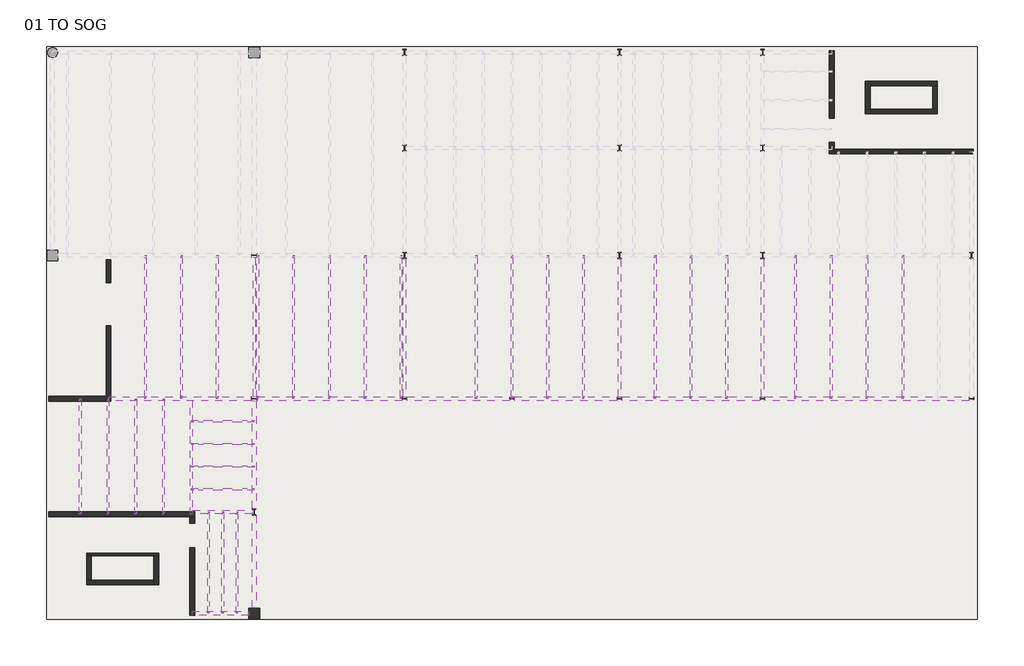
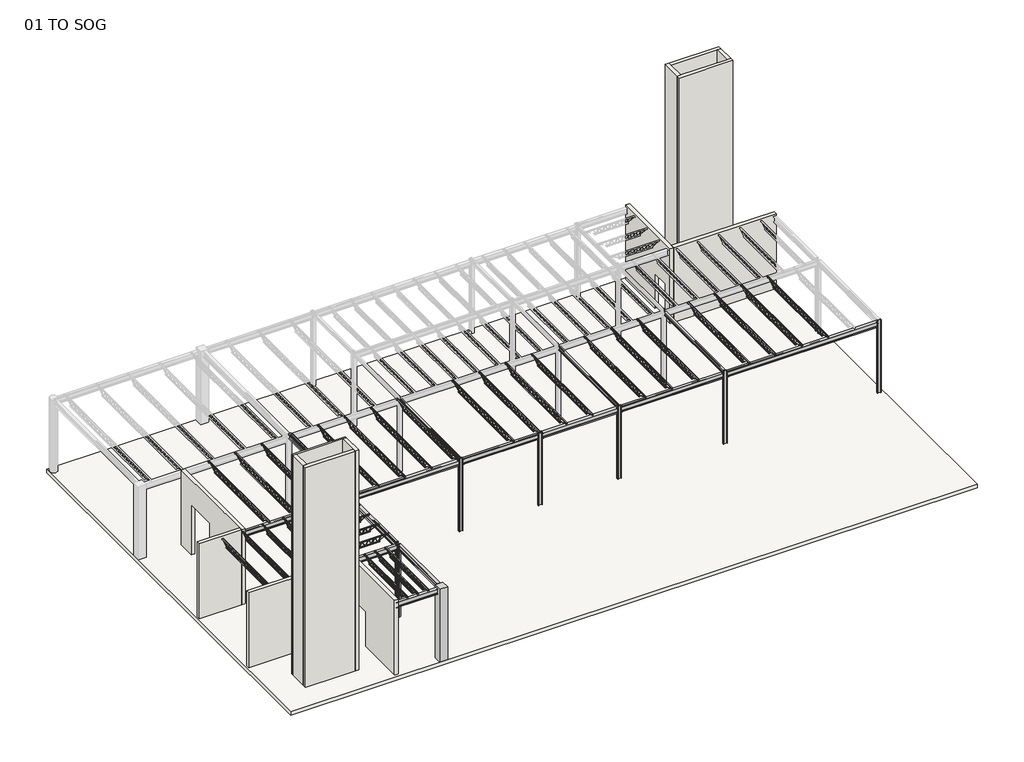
# One storey, part 1 of 2: 45 beams, 14 walls, 8 columns, 1 slab.
"""IFC4 building model written with IfcOpenShell, lengths in millimetres."""

from ifc_helpers import new_model, si_unit, frame, origin, origin_with_axes, place, context, project, spatial, polyline, outline, extrude, faceted_brep, transform, mapped, element, save
from components import k_series_bar_joist_angle_web_12k3_cd6388da, k_series_bar_joist_angle_web_12k3_99e26d15, k_series_bar_joist_angle_web_12k3_59fd12ad, k_series_bar_joist_angle_web_14k6_8be7365d, w_wide_flange_w12x26_d3b26f5c, w_wide_flange_w12x26_05a32f20, w_wide_flange_w12x26_42f441ab, w_wide_flange_w12x26_3f7f05cf, w_wide_flange_w12x26_e485c43d, w_wide_flange_w12x26_dab5e391, w_wide_flange_w12x26_4f900ce5, w_wide_flange_w12x26_99869b80, w_wide_flange_w12x26_59dcab40, w_wide_flange_w8x10_49406460, w_wide_flange_w8x10_a9415ded, w_wide_flange_w8x10_4e543893, w_wide_flange_w8x10_f474adca, w_wide_flange_column_w10x30_8af20c5e, w_wide_flange_column_w8x10_a9b31349

model = new_model("IFC4")

# Units and contexts
model_context = context("Model", 3, world=origin())
ifc_project = project(units=[si_unit("LENGTHUNIT", "METRE", prefix="MILLI")], contexts=[model_context])

# Site, building, storey
site = spatial("IfcSite", under=ifc_project)
building = spatial("IfcBuilding", under=site)
storey = spatial("IfcBuildingStorey", under=building, Name="01 TO SOG", Elevation=0.0)

# Beams
placement = place(None, origin())
k_series_bar_joist_angle_web_12k3_shape = k_series_bar_joist_angle_web_12k3_cd6388da(model_context)
element("IfcBeam", 1, ObjectType="K-Series Bar Joist-Angle Web : 12K3", at=placement, inside=storey, context=model_context, shape_type="MappedRepresentation", body=[
    mapped(k_series_bar_joist_angle_web_12k3_shape, transform((-12634.1838699, -12720.8253362, 4292.6), x_axis=(0.0, 1.0, 0.0), y_axis=(-1.0, 0.0, 0.0), z_axis=(0.0, 0.0, 1.0))),
])
element("IfcBeam", 2, ObjectType="K-Series Bar Joist-Angle Web : 12K3", at=placement, inside=storey, context=model_context, shape_type="MappedRepresentation", body=[
    mapped(k_series_bar_joist_angle_web_12k3_shape, transform((-12024.5838699, -12720.8253362, 4292.6), x_axis=(0.0, 1.0, 0.0), y_axis=(-1.0, 0.0, 0.0), z_axis=(0.0, 0.0, 1.0))),
])
element("IfcBeam", 3, ObjectType="K-Series Bar Joist-Angle Web : 12K3", at=placement, inside=storey, context=model_context, shape_type="MappedRepresentation", body=[
    mapped(k_series_bar_joist_angle_web_12k3_shape, transform((-11414.9838699, -12720.8253362, 4292.6), x_axis=(0.0, 1.0, 0.0), y_axis=(-1.0, 0.0, 0.0), z_axis=(0.0, 0.0, 1.0))),
])
k_series_bar_joist_angle_web_12k3_2_shape = k_series_bar_joist_angle_web_12k3_99e26d15(model_context)
element("IfcBeam", 4, ObjectType="K-Series Bar Joist-Angle Web : 12K3", at=placement, inside=storey, context=model_context, shape_type="MappedRepresentation", body=[
    mapped(k_series_bar_joist_angle_web_12k3_2_shape, transform((-12024.5838699, -6701.0253362, 4292.6), x_axis=(1.0, 0.0, 0.0), y_axis=(0.0, 1.0, 0.0), z_axis=(0.0, 0.0, 1.0))),
])
element("IfcBeam", 5, ObjectType="K-Series Bar Joist-Angle Web : 12K3", at=placement, inside=storey, context=model_context, shape_type="MappedRepresentation", body=[
    mapped(k_series_bar_joist_angle_web_12k3_2_shape, transform((-12024.5838699, -7666.2253362, 4292.6), x_axis=(1.0, 0.0, 0.0), y_axis=(0.0, 1.0, 0.0), z_axis=(0.0, 0.0, 1.0))),
])
element("IfcBeam", 6, ObjectType="K-Series Bar Joist-Angle Web : 12K3", at=placement, inside=storey, context=model_context, shape_type="MappedRepresentation", body=[
    mapped(k_series_bar_joist_angle_web_12k3_2_shape, transform((-12024.5838699, -8631.4253362, 4292.6), x_axis=(1.0, 0.0, 0.0), y_axis=(0.0, 1.0, 0.0), z_axis=(0.0, 0.0, 1.0))),
])
element("IfcBeam", 7, ObjectType="K-Series Bar Joist-Angle Web : 12K3", at=placement, inside=storey, context=model_context, shape_type="MappedRepresentation", body=[
    mapped(k_series_bar_joist_angle_web_12k3_2_shape, transform((-12024.5838699, -9596.6253362, 4292.6), x_axis=(1.0, 0.0, 0.0), y_axis=(0.0, 1.0, 0.0), z_axis=(0.0, 0.0, 1.0))),
])
k_series_bar_joist_angle_web_12k3_3_shape = k_series_bar_joist_angle_web_12k3_59fd12ad(model_context)
element("IfcBeam", 8, ObjectType="K-Series Bar Joist-Angle Web : 12K3", at=placement, inside=storey, context=model_context, shape_type="MappedRepresentation", body=[
    mapped(k_series_bar_joist_angle_web_12k3_3_shape, transform((-18088.1099699, -8199.6253362, 4292.6), x_axis=(0.0, 1.0, 0.0), y_axis=(-1.0, 0.0, 0.0), z_axis=(0.0, 0.0, 1.0))),
])
element("IfcBeam", 9, ObjectType="K-Series Bar Joist-Angle Web : 12K3", at=placement, inside=storey, context=model_context, shape_type="MappedRepresentation", body=[
    mapped(k_series_bar_joist_angle_web_12k3_3_shape, transform((-16907.4925699, -8199.6253362, 4292.6), x_axis=(0.0, 1.0, 0.0), y_axis=(-1.0, 0.0, 0.0), z_axis=(0.0, 0.0, 1.0))),
])
element("IfcBeam", 10, ObjectType="K-Series Bar Joist-Angle Web : 12K3", at=placement, inside=storey, context=model_context, shape_type="MappedRepresentation", body=[
    mapped(k_series_bar_joist_angle_web_12k3_3_shape, transform((-15726.8751699, -8199.6253362, 4292.6), x_axis=(0.0, 1.0, 0.0), y_axis=(-1.0, 0.0, 0.0), z_axis=(0.0, 0.0, 1.0))),
])
element("IfcBeam", 11, ObjectType="K-Series Bar Joist-Angle Web : 12K3", at=placement, inside=storey, context=model_context, shape_type="MappedRepresentation", body=[
    mapped(k_series_bar_joist_angle_web_12k3_3_shape, transform((-14546.2577699, -8199.6253362, 4292.6), x_axis=(0.0, 1.0, 0.0), y_axis=(-1.0, 0.0, 0.0), z_axis=(0.0, 0.0, 1.0))),
])
k_series_bar_joist_angle_web_14k6_shape = k_series_bar_joist_angle_web_14k6_8be7365d(model_context)
element("IfcBeam", 12, ObjectType="K-Series Bar Joist-Angle Web : 14K6", at=placement, inside=storey, context=model_context, shape_type="MappedRepresentation", body=[
    mapped(k_series_bar_joist_angle_web_14k6_shape, transform((16926.2726301, -2687.8253362, 4267.2), x_axis=(0.0, -1.0, 0.0), y_axis=(1.0, 0.0, 0.0), z_axis=(0.0, 0.0, 1.0))),
])
element("IfcBeam", 13, ObjectType="K-Series Bar Joist-Angle Web : 14K6", at=placement, inside=storey, context=model_context, shape_type="MappedRepresentation", body=[
    mapped(k_series_bar_joist_angle_web_14k6_shape, transform((15402.2726301, -2687.8253362, 4267.2), x_axis=(0.0, -1.0, 0.0), y_axis=(1.0, 0.0, 0.0), z_axis=(0.0, 0.0, 1.0))),
])
element("IfcBeam", 14, ObjectType="K-Series Bar Joist-Angle Web : 14K6", at=placement, inside=storey, context=model_context, shape_type="MappedRepresentation", body=[
    mapped(k_series_bar_joist_angle_web_14k6_shape, transform((13878.2726301, -2687.8253362, 4267.2), x_axis=(0.0, -1.0, 0.0), y_axis=(1.0, 0.0, 0.0), z_axis=(0.0, 0.0, 1.0))),
])
element("IfcBeam", 15, ObjectType="K-Series Bar Joist-Angle Web : 14K6", at=placement, inside=storey, context=model_context, shape_type="MappedRepresentation", body=[
    mapped(k_series_bar_joist_angle_web_14k6_shape, transform((12354.2726301, -2687.8253362, 4267.2), x_axis=(0.0, -1.0, 0.0), y_axis=(1.0, 0.0, 0.0), z_axis=(0.0, 0.0, 1.0))),
])
element("IfcBeam", 16, ObjectType="K-Series Bar Joist-Angle Web : 14K6", at=placement, inside=storey, context=model_context, shape_type="MappedRepresentation", body=[
    mapped(k_series_bar_joist_angle_web_14k6_shape, transform((6385.2726301, -2687.8253362, 4267.2), x_axis=(0.0, 1.0, 0.0), y_axis=(-1.0, 0.0, 0.0), z_axis=(0.0, 0.0, 1.0))),
])
element("IfcBeam", 17, ObjectType="K-Series Bar Joist-Angle Web : 14K6", at=placement, inside=storey, context=model_context, shape_type="MappedRepresentation", body=[
    mapped(k_series_bar_joist_angle_web_14k6_shape, transform((7909.2726301, -2687.8253362, 4267.2), x_axis=(0.0, 1.0, 0.0), y_axis=(-1.0, 0.0, 0.0), z_axis=(0.0, 0.0, 1.0))),
])
element("IfcBeam", 18, ObjectType="K-Series Bar Joist-Angle Web : 14K6", at=placement, inside=storey, context=model_context, shape_type="MappedRepresentation", body=[
    mapped(k_series_bar_joist_angle_web_14k6_shape, transform((9433.2726301, -2687.8253362, 4267.2), x_axis=(0.0, 1.0, 0.0), y_axis=(-1.0, 0.0, 0.0), z_axis=(0.0, 0.0, 1.0))),
])
element("IfcBeam", 19, ObjectType="K-Series Bar Joist-Angle Web : 14K6", at=placement, inside=storey, context=model_context, shape_type="MappedRepresentation", body=[
    mapped(k_series_bar_joist_angle_web_14k6_shape, transform((-1234.7273699, -2687.8253362, 4267.2), x_axis=(0.0, 1.0, 0.0), y_axis=(-1.0, 0.0, 0.0), z_axis=(0.0, 0.0, 1.0))),
])
element("IfcBeam", 20, ObjectType="K-Series Bar Joist-Angle Web : 14K6", at=placement, inside=storey, context=model_context, shape_type="MappedRepresentation", body=[
    mapped(k_series_bar_joist_angle_web_14k6_shape, transform((1813.2726301, -2687.8253362, 4267.2), x_axis=(0.0, 1.0, 0.0), y_axis=(-1.0, 0.0, 0.0), z_axis=(0.0, 0.0, 1.0))),
])
element("IfcBeam", 21, ObjectType="K-Series Bar Joist-Angle Web : 14K6", at=placement, inside=storey, context=model_context, shape_type="MappedRepresentation", body=[
    mapped(k_series_bar_joist_angle_web_14k6_shape, transform((3337.2726301, -2687.8253362, 4267.2), x_axis=(0.0, 1.0, 0.0), y_axis=(-1.0, 0.0, 0.0), z_axis=(0.0, 0.0, 1.0))),
])
element("IfcBeam", 22, ObjectType="K-Series Bar Joist-Angle Web : 14K6", at=placement, inside=storey, context=model_context, shape_type="MappedRepresentation", body=[
    mapped(k_series_bar_joist_angle_web_14k6_shape, transform((-9007.1273699, -2687.8253362, 4267.2), x_axis=(0.0, 1.0, 0.0), y_axis=(-1.0, 0.0, 0.0), z_axis=(0.0, 0.0, 1.0))),
])
element("IfcBeam", 23, ObjectType="K-Series Bar Joist-Angle Web : 14K6", at=placement, inside=storey, context=model_context, shape_type="MappedRepresentation", body=[
    mapped(k_series_bar_joist_angle_web_14k6_shape, transform((-7483.1273699, -2687.8253362, 4267.2), x_axis=(0.0, 1.0, 0.0), y_axis=(-1.0, 0.0, 0.0), z_axis=(0.0, 0.0, 1.0))),
])
element("IfcBeam", 24, ObjectType="K-Series Bar Joist-Angle Web : 14K6", at=placement, inside=storey, context=model_context, shape_type="MappedRepresentation", body=[
    mapped(k_series_bar_joist_angle_web_14k6_shape, transform((-5959.1273699, -2687.8253362, 4267.2), x_axis=(0.0, 1.0, 0.0), y_axis=(-1.0, 0.0, 0.0), z_axis=(0.0, 0.0, 1.0))),
])
element("IfcBeam", 25, ObjectType="K-Series Bar Joist-Angle Web : 14K6", at=placement, inside=storey, context=model_context, shape_type="MappedRepresentation", body=[
    mapped(k_series_bar_joist_angle_web_14k6_shape, transform((-4435.1273699, -2687.8253362, 4267.2), x_axis=(0.0, 1.0, 0.0), y_axis=(-1.0, 0.0, 0.0), z_axis=(0.0, 0.0, 1.0))),
])
element("IfcBeam", 26, ObjectType="K-Series Bar Joist-Angle Web : 14K6", at=placement, inside=storey, context=model_context, shape_type="MappedRepresentation", body=[
    mapped(k_series_bar_joist_angle_web_14k6_shape, transform((-12258.3273699, -2687.8253362, 4267.2), x_axis=(0.0, -1.0, 0.0), y_axis=(1.0, 0.0, 0.0), z_axis=(0.0, 0.0, 1.0))),
])
element("IfcBeam", 27, ObjectType="K-Series Bar Joist-Angle Web : 14K6", at=placement, inside=storey, context=model_context, shape_type="MappedRepresentation", body=[
    mapped(k_series_bar_joist_angle_web_14k6_shape, transform((-13782.3273699, -2687.8253362, 4267.2), x_axis=(0.0, -1.0, 0.0), y_axis=(1.0, 0.0, 0.0), z_axis=(0.0, 0.0, 1.0))),
])
element("IfcBeam", 28, ObjectType="K-Series Bar Joist-Angle Web : 14K6", at=placement, inside=storey, context=model_context, shape_type="MappedRepresentation", body=[
    mapped(k_series_bar_joist_angle_web_14k6_shape, transform((-15306.3273699, -2687.8253362, 4267.2), x_axis=(0.0, -1.0, 0.0), y_axis=(1.0, 0.0, 0.0), z_axis=(0.0, 0.0, 1.0))),
])
element("IfcBeam", 29, ObjectType="K-Series Bar Joist-Angle Web : 14K6", at=placement, inside=storey, context=model_context, shape_type="MappedRepresentation", body=[
    mapped(k_series_bar_joist_angle_web_14k6_shape, transform((289.2726301, -2687.8253362, 4267.2), x_axis=(0.0, 1.0, 0.0), y_axis=(-1.0, 0.0, 0.0), z_axis=(0.0, 0.0, 1.0))),
])
element("IfcBeam", 30, ObjectType="K-Series Bar Joist-Angle Web : 14K6", at=placement, inside=storey, context=model_context, shape_type="MappedRepresentation", body=[
    mapped(k_series_bar_joist_angle_web_14k6_shape, transform((-10531.1273699, -2687.8253362, 4267.2), x_axis=(0.0, 1.0, 0.0), y_axis=(-1.0, 0.0, 0.0), z_axis=(0.0, 0.0, 1.0))),
])
w_wide_flange_w12x26_shape = w_wide_flange_w12x26_d3b26f5c(model_context)
element("IfcBeam", 31, ObjectType="W-Wide Flange : W12x26", at=placement, inside=storey, context=model_context, shape_type="MappedRepresentation", body=[
    mapped(w_wide_flange_w12x26_shape, transform((-1996.7273699, -5735.8253362, 4226.56), x_axis=(1.0, 0.0, 0.0), y_axis=(0.0, 1.0, 0.0), z_axis=(0.0, 0.0, 1.0))),
])
element("IfcBeam", 32, ObjectType="W-Wide Flange : W12x26", at=placement, inside=storey, context=model_context, shape_type="MappedRepresentation", body=[
    mapped(w_wide_flange_w12x26_shape, transform((2575.2726301, -5735.8253362, 4226.56), x_axis=(1.0, 0.0, 0.0), y_axis=(0.0, 1.0, 0.0), z_axis=(0.0, 0.0, 1.0))),
])
w_wide_flange_w12x26_2_shape = w_wide_flange_w12x26_05a32f20(model_context)
element("IfcBeam", 33, ObjectType="W-Wide Flange : W12x26", at=placement, inside=storey, context=model_context, shape_type="MappedRepresentation", body=[
    mapped(w_wide_flange_w12x26_2_shape, transform((7909.2726301, -5735.8253362, 4226.56), x_axis=(1.0, 0.0, 0.0), y_axis=(0.0, 1.0, 0.0), z_axis=(0.0, 0.0, 1.0))),
])
w_wide_flange_w12x26_3_shape = w_wide_flange_w12x26_42f441ab(model_context)
element("IfcBeam", 34, ObjectType="W-Wide Flange : W12x26", at=placement, inside=storey, context=model_context, shape_type="MappedRepresentation", body=[
    mapped(w_wide_flange_w12x26_3_shape, transform((15402.2726301, -5735.8253362, 4226.56), x_axis=(1.0, 0.0, 0.0), y_axis=(0.0, 1.0, 0.0), z_axis=(0.0, 0.0, 1.0))),
])
w_wide_flange_w12x26_4_shape = w_wide_flange_w12x26_3f7f05cf(model_context)
element("IfcBeam", 35, ObjectType="W-Wide Flange : W12x26", at=placement, inside=storey, context=model_context, shape_type="MappedRepresentation", body=[
    mapped(w_wide_flange_w12x26_4_shape, transform((-10683.5273699, -8148.8253362, 4226.56), x_axis=(0.0, -1.0, 0.0), y_axis=(1.0, 0.0, 0.0), z_axis=(0.0, 0.0, 1.0))),
])
w_wide_flange_w12x26_5_shape = w_wide_flange_w12x26_e485c43d(model_context)
element("IfcBeam", 36, ObjectType="W-Wide Flange : W12x26", at=placement, inside=storey, context=model_context, shape_type="MappedRepresentation", body=[
    mapped(w_wide_flange_w12x26_5_shape, transform((-10683.5273699, -12720.8253362, 4290.06), x_axis=(0.0, 1.0, 0.0), y_axis=(-1.0, 0.0, 0.0), z_axis=(0.0, 0.0, 1.0))),
])
w_wide_flange_w12x26_6_shape = w_wide_flange_w12x26_dab5e391(model_context)
element("IfcBeam", 37, ObjectType="W-Wide Flange : W12x26", at=placement, inside=storey, context=model_context, shape_type="MappedRepresentation", body=[
    mapped(w_wide_flange_w12x26_6_shape, transform((-13782.3273699, -5735.8253362, 4226.56), x_axis=(-1.0, 0.0, 0.0), y_axis=(0.0, -1.0, 0.0), z_axis=(0.0, 0.0, 1.0))),
])
w_wide_flange_w12x26_7_shape = w_wide_flange_w12x26_4f900ce5(model_context)
element("IfcBeam", 38, ObjectType="W-Wide Flange : W12x26", at=placement, inside=storey, context=model_context, shape_type="MappedRepresentation", body=[
    mapped(w_wide_flange_w12x26_7_shape, transform((-12024.5838699, -10561.8253362, 4226.56), x_axis=(-1.0, 0.0, 0.0), y_axis=(0.0, -1.0, 0.0), z_axis=(0.0, 0.0, 1.0))),
])
w_wide_flange_w12x26_8_shape = w_wide_flange_w12x26_99869b80(model_context)
element("IfcBeam", 39, ObjectType="W-Wide Flange : W12x26", at=placement, inside=storey, context=model_context, shape_type="MappedRepresentation", body=[
    mapped(w_wide_flange_w12x26_8_shape, transform((-7483.1273699, -5735.8253362, 4226.56), x_axis=(1.0, 0.0, 0.0), y_axis=(0.0, 1.0, 0.0), z_axis=(0.0, 0.0, 1.0))),
])
w_wide_flange_w12x26_9_shape = w_wide_flange_w12x26_59dcab40(model_context)
element("IfcBeam", 40, ObjectType="W-Wide Flange : W12x26", at=placement, inside=storey, context=model_context, shape_type="MappedRepresentation", body=[
    mapped(w_wide_flange_w12x26_9_shape, transform((-12004.3273699, -14879.8253362, 4226.56), x_axis=(-1.0, 0.0, 0.0), y_axis=(0.0, -1.0, 0.0), z_axis=(0.0, 0.0, 1.0))),
])
w_wide_flange_w8x10_shape = w_wide_flange_w8x10_49406460(model_context)
element("IfcBeam", 41, ObjectType="W-Wide Flange : W8x10", at=placement, inside=storey, context=model_context, shape_type="MappedRepresentation", body=[
    mapped(w_wide_flange_w8x10_shape, transform((10957.2726301, -2687.8253362, 4344.797), x_axis=(0.0, -1.0, 0.0), y_axis=(1.0, 0.0, 0.0), z_axis=(0.0, 0.0, 1.0))),
])
w_wide_flange_w8x10_2_shape = w_wide_flange_w8x10_a9415ded(model_context)
element("IfcBeam", 42, ObjectType="W-Wide Flange : W8x10", at=placement, inside=storey, context=model_context, shape_type="MappedRepresentation", body=[
    mapped(w_wide_flange_w8x10_2_shape, transform((4861.2726301, -2687.8253362, 4344.797), x_axis=(0.0, 1.0, 0.0), y_axis=(-1.0, 0.0, 0.0), z_axis=(0.0, 0.0, 1.0))),
])
element("IfcBeam", 43, ObjectType="W-Wide Flange : W8x10", at=placement, inside=storey, context=model_context, shape_type="MappedRepresentation", body=[
    mapped(w_wide_flange_w8x10_2_shape, transform((-4282.7273699, -2687.8253362, 4344.797), x_axis=(0.0, 1.0, 0.0), y_axis=(-1.0, 0.0, 0.0), z_axis=(0.0, 0.0, 1.0))),
])
w_wide_flange_w8x10_3_shape = w_wide_flange_w8x10_4e543893(model_context)
element("IfcBeam", 44, ObjectType="W-Wide Flange : W8x10", at=placement, inside=storey, context=model_context, shape_type="MappedRepresentation", body=[
    mapped(w_wide_flange_w8x10_3_shape, transform((-10683.5273699, -2687.8253362, 4344.797), x_axis=(0.0, 1.0, 0.0), y_axis=(-1.0, 0.0, 0.0), z_axis=(0.0, 0.0, 1.0))),
])
w_wide_flange_w8x10_4_shape = w_wide_flange_w8x10_f474adca(model_context)
element("IfcBeam", 45, ObjectType="W-Wide Flange : W8x10", at=placement, inside=storey, context=model_context, shape_type="MappedRepresentation", body=[
    mapped(w_wide_flange_w8x10_4_shape, transform((-13365.6403699, -8199.6253362, 4281.297), x_axis=(0.0, 1.0, 0.0), y_axis=(-1.0, 0.0, 0.0), z_axis=(0.0, 0.0, 1.0))),
])

# Columns
element("IfcColumn", 46, ObjectType="Concrete-Rectangular-Column : CIP Column_C2_18\" x 18\"", at=placement, inside=storey, context=model_context, shape_type="SweptSolid", body=[
    extrude(outline(polyline([(-10454.9273699, -14651.2253362), (-10454.9273699, -15108.4253362), (-10912.1273699, -15108.4253362), (-10912.1273699, -14651.2253362), (-10454.9273699, -14651.2253362)])), origin_with_axes(), (0.0, 0.0, 1.0), 4445.0),
])
w_wide_flange_column_w10x30_shape = w_wide_flange_column_w10x30_8af20c5e(model_context)
element("IfcColumn", 47, ObjectType="W-Wide Flange-Column : W10X30", at=placement, inside=storey, context=model_context, shape_type="MappedRepresentation", body=[
    mapped(w_wide_flange_column_w10x30_shape, transform((-10683.5273699, -5735.8253362, 0.0), x_axis=(0.0, 1.0, 0.0), y_axis=(-1.0, 0.0, 0.0), z_axis=(0.0, 0.0, 1.0))),
])
element("IfcColumn", 48, ObjectType="W-Wide Flange-Column : W10X30", at=placement, inside=storey, context=model_context, shape_type="MappedRepresentation", body=[
    mapped(w_wide_flange_column_w10x30_shape, transform((-10683.5273699, -10561.8253362, 0.0), x_axis=(-1.0, 0.0, 0.0), y_axis=(0.0, -1.0, 0.0), z_axis=(0.0, 0.0, 1.0))),
])
w_wide_flange_column_w8x10_shape = w_wide_flange_column_w8x10_a9b31349(model_context)
element("IfcColumn", 49, ObjectType="W-Wide Flange-Column : W8X10", at=placement, inside=storey, context=model_context, shape_type="MappedRepresentation", body=[
    mapped(w_wide_flange_column_w8x10_shape, transform((-4282.7273699, -5735.8253362, 0.0), x_axis=(0.0, 1.0, 0.0), y_axis=(-1.0, 0.0, 0.0), z_axis=(0.0, 0.0, 1.0))),
])
element("IfcColumn", 50, ObjectType="W-Wide Flange-Column : W8X10", at=placement, inside=storey, context=model_context, shape_type="MappedRepresentation", body=[
    mapped(w_wide_flange_column_w8x10_shape, transform((289.2726301, -5735.8253362, 0.0), x_axis=(0.0, 1.0, 0.0), y_axis=(-1.0, 0.0, 0.0), z_axis=(0.0, 0.0, 1.0))),
])
element("IfcColumn", 51, ObjectType="W-Wide Flange-Column : W8X10", at=placement, inside=storey, context=model_context, shape_type="MappedRepresentation", body=[
    mapped(w_wide_flange_column_w8x10_shape, transform((4861.2726301, -5735.8253362, 0.0), x_axis=(0.0, 1.0, 0.0), y_axis=(-1.0, 0.0, 0.0), z_axis=(0.0, 0.0, 1.0))),
])
element("IfcColumn", 52, ObjectType="W-Wide Flange-Column : W8X10", at=placement, inside=storey, context=model_context, shape_type="MappedRepresentation", body=[
    mapped(w_wide_flange_column_w8x10_shape, transform((10957.2726301, -5735.8253362, 0.0), x_axis=(0.0, 1.0, 0.0), y_axis=(-1.0, 0.0, 0.0), z_axis=(0.0, 0.0, 1.0))),
])
element("IfcColumn", 53, ObjectType="W-Wide Flange-Column : W8X10", at=placement, inside=storey, context=model_context, shape_type="MappedRepresentation", body=[
    mapped(w_wide_flange_column_w8x10_shape, transform((19847.2726301, -5735.8253362, 0.0), x_axis=(0.0, 1.0, 0.0), y_axis=(-1.0, 0.0, 0.0), z_axis=(0.0, 0.0, 1.0))),
])

# Slab
element("IfcSlab", 54, ObjectType="A1030100_SOG_8\" CIP", at=placement, inside=storey, context=model_context, shape_type="SweptSolid", body=[
    extrude(outline(polyline([(20101.2726301, -15133.8253362), (-19522.7273699, -15133.8253362), (-19522.7273699, 9250.1746638), (20101.2726301, 9250.1746638), (20101.2726301, -15133.8253362)])), frame((0.0, 0.0, -203.2), z_axis=(0.0, 0.0, 1.0), x_axis=(1.0, 0.0, 0.0)), (0.0, 0.0, 1.0), 203.2),
])

# Walls
element("IfcWall", 55, ObjectType="Shear Wall_S1_4 1/4\" CIP", at=placement, inside=storey, context=model_context, shape_type="Brep", body=[
    faceted_brep([(-14747.5273699, -12311.2503362, 0.0), (-17820.9273699, -12311.2503362, 0.0), (-17820.9273699, -12311.2503362, 13411.2), (-14747.5273699, -12311.2503362, 13411.2), (-14747.5273699, -12419.2003362, 0.0), (-14747.5273699, -12419.2003362, 13411.2), (-14950.7273699, -12419.2003362, 13411.2), (-17617.7273699, -12419.2003362, 13411.2), (-17820.9273699, -12419.2003362, 13411.2), (-17820.9273699, -12419.2003362, 0.0), (-17617.7273699, -12419.2003362, 0.0), (-14950.7273699, -12419.2003362, 0.0)], [[[0, 1, 2, 3]], [[4, 5, 6, 7, 8, 9, 10, 11]], [[1, 0, 4, 11, 10, 9]], [[3, 2, 8, 7, 6, 5]], [[2, 1, 9, 8]], [[0, 3, 5, 4]]]),
])
element("IfcWall", 56, ObjectType="Shear Wall_S1_8\" CIP", at=placement, inside=storey, context=model_context, shape_type="Brep", body=[
    faceted_brep([(-19421.1273699, -10765.0253362, 0.0), (-13426.7273699, -10765.0253362, 0.0), (-13223.5273699, -10765.0253362, 0.0), (-13223.5273699, -10765.0253362, 4572.0), (-13426.7273699, -10765.0253362, 4572.0), (-19421.1273699, -10765.0253362, 4572.0), (-19421.1273699, -10561.8253362, 0.0), (-19421.1273699, -10561.8253362, 4572.0), (-13223.5273699, -10561.8253362, 4572.0), (-13223.5273699, -10561.8253362, 0.0)], [[[0, 1, 2, 3, 4, 5]], [[6, 7, 8, 9]], [[2, 1, 0, 6, 9]], [[5, 4, 3, 8, 7]], [[0, 5, 7, 6]], [[3, 2, 9, 8]]]),
])
element("IfcWall", 57, ObjectType="Shear Wall_S1_8\" CIP", at=placement, inside=storey, context=model_context, shape_type="SweptSolid", body=[
    extrude(outline(polyline([(-10765.0253362, 4572.0), (-10765.0253362, 0.0), (-11050.7753362, 0.0), (-11050.7753362, 2133.6), (-12085.8253362, 2133.6), (-12085.8253362, 0.0), (-14956.0253362, 0.0), (-14956.0253362, 4572.0), (-10765.0253362, 4572.0)])), frame((-13426.7273699, 0.0, 0.0), z_axis=(1.0, 0.0, 0.0), x_axis=(0.0, 1.0, 0.0)), (0.0, 0.0, 1.0), 203.2),
])
element("IfcWall", 58, ObjectType="Shear Wall_S1_8\" CIP", at=placement, inside=storey, context=model_context, shape_type="Brep", body=[
    faceted_brep([(13802.0726301, 4678.1746638, 0.0), (13802.0726301, 4678.1746638, 4572.0), (13802.0726301, 9072.3746638, 4572.0), (13802.0726301, 9072.3746638, 0.0), (13802.0726301, 6202.1746638, 0.0), (13802.0726301, 6202.1746638, 2133.6), (13802.0726301, 5167.1246638, 2133.6), (13802.0726301, 5167.1246638, 0.0), (14005.2726301, 4678.1746638, 4572.0), (14005.2726301, 4678.1746638, 0.0), (14005.2726301, 4881.3746638, 0.0), (14005.2726301, 5167.1246638, 0.0), (14005.2726301, 5167.1246638, 2133.6), (14005.2726301, 6202.1746638, 2133.6), (14005.2726301, 6202.1746638, 0.0), (14005.2726301, 9072.3746638, 0.0), (14005.2726301, 9072.3746638, 4572.0), (14005.2726301, 4881.3746638, 4572.0)], [[[0, 1, 2, 3, 4, 5, 6, 7]], [[8, 9, 10, 11, 12, 13, 14, 15, 16, 17]], [[3, 15, 14, 4]], [[9, 0, 7, 11, 10]], [[2, 1, 8, 17, 16]], [[3, 2, 16, 15]], [[5, 13, 12, 6]], [[13, 5, 4, 14]], [[6, 12, 11, 7]], [[1, 0, 9, 8]]]),
])
element("IfcWall", 59, ObjectType="Shear Wall_S1_8\" CIP", at=placement, inside=storey, context=model_context, shape_type="SweptSolid", body=[
    extrude(outline(polyline([(19923.4726301, 4678.1746638), (14005.2726301, 4678.1746638), (14005.2726301, 4881.3746638), (19923.4726301, 4881.3746638), (19923.4726301, 4678.1746638)])), origin_with_axes(), (0.0, 0.0, 1.0), 4572.0),
])
element("IfcWall", 60, ObjectType="Shear Wall_S1_8\" CIP", at=placement, inside=storey, context=model_context, shape_type="Brep", body=[
    faceted_brep([(-16982.7273699, -5837.4253362, 0.0), (-16982.7273699, -5837.4253362, 4572.0), (-16982.7273699, -5634.2253362, 4572.0), (-16982.7273699, 182.3746638, 4572.0), (-16982.7273699, 182.3746638, 0.0), (-16982.7273699, -808.2253362, 0.0), (-16982.7273699, -808.2253362, 3048.0), (-16982.7273699, -2637.0253362, 3048.0), (-16982.7273699, -2637.0253362, 0.0), (-16982.7273699, -5634.2253362, 0.0), (-16779.5273699, -5837.4253362, 4572.0), (-16779.5273699, -5837.4253362, 0.0), (-16779.5273699, -2637.0253362, 0.0), (-16779.5273699, -2637.0253362, 3048.0), (-16779.5273699, -808.2253362, 3048.0), (-16779.5273699, -808.2253362, 0.0), (-16779.5273699, 182.3746638, 0.0), (-16779.5273699, 182.3746638, 4572.0)], [[[0, 1, 2, 3, 4, 5, 6, 7, 8, 9]], [[10, 11, 12, 13, 14, 15, 16, 17]], [[4, 16, 15, 5]], [[11, 0, 9, 8, 12]], [[3, 2, 1, 10, 17]], [[4, 3, 17, 16]], [[6, 14, 13, 7]], [[14, 6, 5, 15]], [[7, 13, 12, 8]], [[1, 0, 11, 10]]]),
])
element("IfcWall", 61, ObjectType="Shear Wall_S1_8\" CIP", at=placement, inside=storey, context=model_context, shape_type="SweptSolid", body=[
    extrude(outline(polyline([(-19421.1273699, -5634.2253362), (-16982.7273699, -5634.2253362), (-16982.7273699, -5837.4253362), (-19421.1273699, -5837.4253362), (-19421.1273699, -5634.2253362)])), origin_with_axes(), (0.0, 0.0, 1.0), 4572.0),
])
element("IfcWall", 62, ObjectType="Shear Wall_S1_8\" CIP", at=placement, inside=storey, context=model_context, shape_type="Brep", body=[
    faceted_brep([(-14747.5273699, -13660.6253362, 0.0), (-14747.5273699, -12419.2003362, 0.0), (-14747.5273699, -12419.2003362, 13411.2), (-14747.5273699, -13660.6253362, 13411.2), (-14950.7273699, -13660.6253362, 0.0), (-14950.7273699, -13660.6253362, 13411.2), (-14950.7273699, -13457.4253362, 13411.2), (-14950.7273699, -12419.2003362, 13411.2), (-14950.7273699, -12419.2003362, 0.0), (-14950.7273699, -13457.4253362, 0.0)], [[[0, 1, 2, 3]], [[4, 5, 6, 7, 8, 9]], [[1, 0, 4, 9, 8]], [[3, 2, 7, 6, 5]], [[0, 3, 5, 4]], [[2, 1, 8, 7]]]),
])
element("IfcWall", 63, ObjectType="Shear Wall_S1_8\" CIP", at=placement, inside=storey, context=model_context, shape_type="Brep", body=[
    faceted_brep([(-17820.9273699, -13660.6253362, 0.0), (-14950.7273699, -13660.6253362, 0.0), (-14950.7273699, -13660.6253362, 13411.2), (-17820.9273699, -13660.6253362, 13411.2), (-17820.9273699, -13457.4253362, 0.0), (-17820.9273699, -13457.4253362, 13411.2), (-17617.7273699, -13457.4253362, 13411.2), (-14950.7273699, -13457.4253362, 13411.2), (-14950.7273699, -13457.4253362, 0.0), (-17617.7273699, -13457.4253362, 0.0)], [[[0, 1, 2, 3]], [[4, 5, 6, 7, 8, 9]], [[1, 0, 4, 9, 8]], [[3, 2, 7, 6, 5]], [[0, 3, 5, 4]], [[2, 1, 8, 7]]]),
])
element("IfcWall", 64, ObjectType="Shear Wall_S1_8\" CIP", at=placement, inside=storey, context=model_context, shape_type="SweptSolid", body=[
    extrude(outline(polyline([(-17820.9273699, -13457.4253362), (-17820.9273699, -12419.2003362), (-17617.7273699, -12419.2003362), (-17617.7273699, -13457.4253362), (-17820.9273699, -13457.4253362)])), origin_with_axes(), (0.0, 0.0, 1.0), 13411.2),
])
element("IfcWall", 65, ObjectType="Shear Wall_S1_8\" CIP", at=placement, inside=storey, context=model_context, shape_type="Brep", body=[
    faceted_brep([(15326.0726301, 6379.9746638, 0.0), (18399.4726301, 6379.9746638, 0.0), (18399.4726301, 6379.9746638, 13411.2), (15326.0726301, 6379.9746638, 13411.2), (15326.0726301, 6583.1746638, 0.0), (15326.0726301, 6583.1746638, 13411.2), (15529.2726301, 6583.1746638, 13411.2), (18196.2726301, 6583.1746638, 13411.2), (18399.4726301, 6583.1746638, 13411.2), (18399.4726301, 6583.1746638, 0.0), (18196.2726301, 6583.1746638, 0.0), (15529.2726301, 6583.1746638, 0.0)], [[[0, 1, 2, 3]], [[4, 5, 6, 7, 8, 9, 10, 11]], [[1, 0, 4, 11, 10, 9]], [[3, 2, 8, 7, 6, 5]], [[2, 1, 9, 8]], [[0, 3, 5, 4]]]),
])
element("IfcWall", 66, ObjectType="Shear Wall_S1_8\" CIP", at=placement, inside=storey, context=model_context, shape_type="Brep", body=[
    faceted_brep([(15326.0726301, 7776.9746638, 0.0), (15326.0726301, 6583.1746638, 0.0), (15326.0726301, 6583.1746638, 13411.2), (15326.0726301, 7776.9746638, 13411.2), (15529.2726301, 7776.9746638, 0.0), (15529.2726301, 7776.9746638, 13411.2), (15529.2726301, 7573.7746638, 13411.2), (15529.2726301, 6583.1746638, 13411.2), (15529.2726301, 6583.1746638, 0.0), (15529.2726301, 7573.7746638, 0.0)], [[[0, 1, 2, 3]], [[4, 5, 6, 7, 8, 9]], [[1, 0, 4, 9, 8]], [[3, 2, 7, 6, 5]], [[0, 3, 5, 4]], [[2, 1, 8, 7]]]),
])
element("IfcWall", 67, ObjectType="Shear Wall_S1_8\" CIP", at=placement, inside=storey, context=model_context, shape_type="Brep", body=[
    faceted_brep([(18399.4726301, 7776.9746638, 0.0), (15529.2726301, 7776.9746638, 0.0), (15529.2726301, 7776.9746638, 13411.2), (18399.4726301, 7776.9746638, 13411.2), (18399.4726301, 7573.7746638, 0.0), (18399.4726301, 7573.7746638, 13411.2), (18196.2726301, 7573.7746638, 13411.2), (15529.2726301, 7573.7746638, 13411.2), (15529.2726301, 7573.7746638, 0.0), (18196.2726301, 7573.7746638, 0.0)], [[[0, 1, 2, 3]], [[4, 5, 6, 7, 8, 9]], [[1, 0, 4, 9, 8]], [[3, 2, 7, 6, 5]], [[0, 3, 5, 4]], [[2, 1, 8, 7]]]),
])
element("IfcWall", 68, ObjectType="Shear Wall_S1_8\" CIP", at=placement, inside=storey, context=model_context, shape_type="SweptSolid", body=[
    extrude(outline(polyline([(18399.4726301, 7573.7746638), (18399.4726301, 6583.1746638), (18196.2726301, 6583.1746638), (18196.2726301, 7573.7746638), (18399.4726301, 7573.7746638)])), origin_with_axes(), (0.0, 0.0, 1.0), 13411.2),
])

save(model, "model.ifc")
